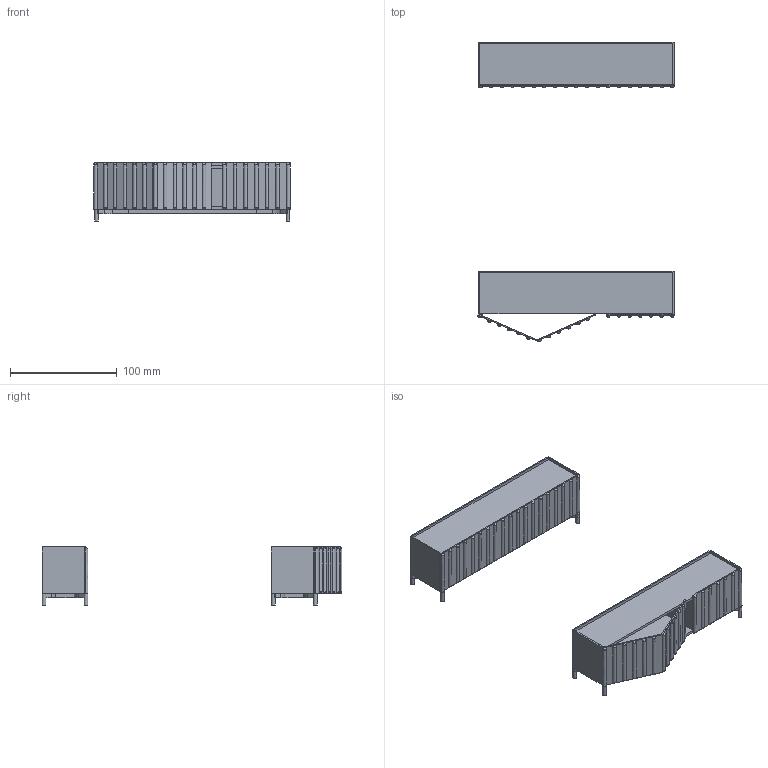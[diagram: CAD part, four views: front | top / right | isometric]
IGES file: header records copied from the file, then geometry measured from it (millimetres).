
Global section: file name: /Users/giona/Google Drive/E-GGS/DESIGN/Credenze/container/MATH/3d/container183.igs; preprocessor: Trout Lake IGES 012 Jun 21 2016; date: 211008.105250; units: millimetre
Bounding box: 184.21 x 281.45 x 54.5 mm (x, y, z)
Surface area: 174598 mm2 (no closed solid volume)
Topology: 0 solids, 0 shells, 420 faces, 3262 edges, 3246 vertices
Faces by surface type: bspline 420
